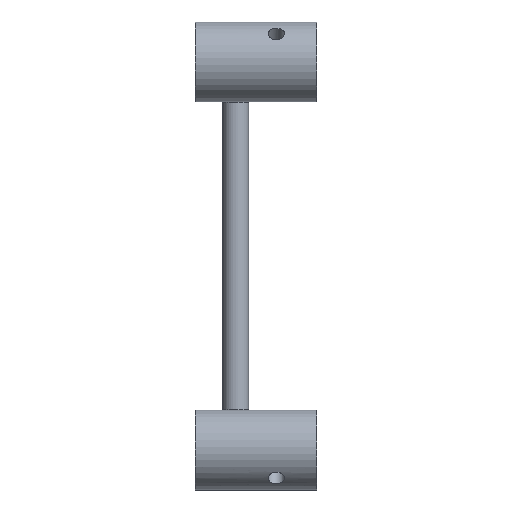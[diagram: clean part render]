
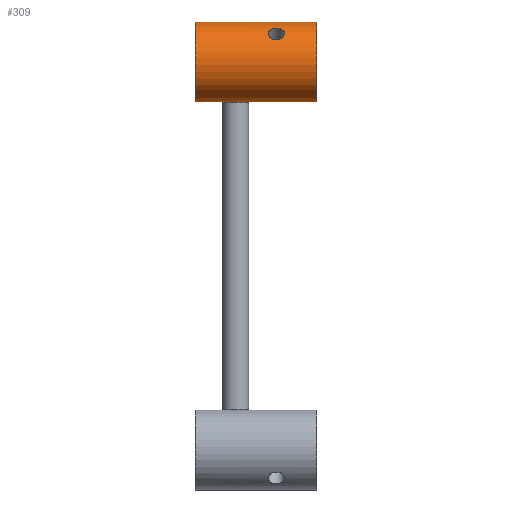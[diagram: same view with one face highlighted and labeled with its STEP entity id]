
A CAD part, front view. The second image highlights one B-rep face of the part: STEP entity #309.
In plain terms, the highlighted cylindrical face has radius 24.66 mm (diameter 49.319 mm), a full revolution.
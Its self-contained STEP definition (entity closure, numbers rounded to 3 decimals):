
#13=B_SPLINE_CURVE_WITH_KNOTS('',3,(#489,#490,#491,#492,#493,#494,#495,
#496,#497,#498,#499,#500,#501,#502,#503,#504,#505,#506,#507,#508,#509,#510,
#511,#512,#513,#514,#515,#516,#517,#518,#519,#520,#521,#522),
 .UNSPECIFIED.,.T.,.F.,(4,2,2,2,2,2,2,2,2,2,2,2,2,2,2,2,4),(0.,0.189,
0.378,0.567,0.756,0.945,
1.133,1.322,1.511,1.7,1.889,
2.078,2.267,2.456,2.645,2.834,
3.023),.UNSPECIFIED.);
#14=B_SPLINE_CURVE_WITH_KNOTS('',3,(#524,#525,#526,#527,#528,#529,#530,
#531,#532,#533,#534,#535,#536,#537,#538,#539,#540,#541,#542,#543,#544,#545,
#546,#547,#548,#549,#550,#551,#552,#553,#554,#555,#556,#557),
 .UNSPECIFIED.,.T.,.F.,(4,2,2,2,2,2,2,2,2,2,2,2,2,2,2,2,4),(0.,0.189,
0.378,0.567,0.756,0.945,
1.133,1.322,1.511,1.7,1.889,
2.078,2.267,2.456,2.645,2.834,
3.023),.UNSPECIFIED.);
#48=FACE_BOUND('',#105,.T.);
#49=FACE_BOUND('',#106,.T.);
#50=FACE_BOUND('',#107,.T.);
#73=FACE_OUTER_BOUND('',#104,.T.);
#104=EDGE_LOOP('',(#216));
#105=EDGE_LOOP('',(#217));
#106=EDGE_LOOP('',(#218));
#107=EDGE_LOOP('',(#219));
#145=CIRCLE('',#350,24.66);
#146=CIRCLE('',#352,24.66);
#161=VERTEX_POINT('',#488);
#162=VERTEX_POINT('',#523);
#163=VERTEX_POINT('',#559);
#164=VERTEX_POINT('',#562);
#185=EDGE_CURVE('',#161,#161,#13,.T.);
#186=EDGE_CURVE('',#162,#162,#14,.T.);
#187=EDGE_CURVE('',#163,#163,#145,.T.);
#188=EDGE_CURVE('',#164,#164,#146,.T.);
#216=ORIENTED_EDGE('',*,*,#188,.F.);
#217=ORIENTED_EDGE('',*,*,#185,.T.);
#218=ORIENTED_EDGE('',*,*,#186,.T.);
#219=ORIENTED_EDGE('',*,*,#187,.T.);
#256=CYLINDRICAL_SURFACE('',#351,24.66);
#309=ADVANCED_FACE('',(#73,#48,#49,#50),#256,.T.);
#350=AXIS2_PLACEMENT_3D('',#560,#408,#409);
#351=AXIS2_PLACEMENT_3D('',#561,#410,#411);
#352=AXIS2_PLACEMENT_3D('',#563,#412,#413);
#408=DIRECTION('center_axis',(1.,0.,0.));
#409=DIRECTION('ref_axis',(0.,-0.707,0.707));
#410=DIRECTION('center_axis',(1.,0.,0.));
#411=DIRECTION('ref_axis',(0.,-0.707,0.707));
#412=DIRECTION('center_axis',(1.,0.,0.));
#413=DIRECTION('ref_axis',(0.,-0.707,0.707));
#488=CARTESIAN_POINT('',(50.,-224.034,-19.113));
#489=CARTESIAN_POINT('Ctrl Pts',(50.,-224.034,-19.113));
#490=CARTESIAN_POINT('Ctrl Pts',(49.37,-224.034,-19.113));
#491=CARTESIAN_POINT('Ctrl Pts',(48.7,-224.104,-19.222));
#492=CARTESIAN_POINT('Ctrl Pts',(47.468,-224.397,-19.652));
#493=CARTESIAN_POINT('Ctrl Pts',(46.907,-224.62,-19.972));
#494=CARTESIAN_POINT('Ctrl Pts',(46.022,-225.156,-20.69));
#495=CARTESIAN_POINT('Ctrl Pts',(45.637,-225.504,-21.134));
#496=CARTESIAN_POINT('Ctrl Pts',(45.126,-226.307,-22.073));
#497=CARTESIAN_POINT('Ctrl Pts',(45.,-226.762,-22.566));
#498=CARTESIAN_POINT('Ctrl Pts',(45.,-227.653,-23.456));
#499=CARTESIAN_POINT('Ctrl Pts',(45.126,-228.146,-23.912));
#500=CARTESIAN_POINT('Ctrl Pts',(45.637,-229.084,-24.715));
#501=CARTESIAN_POINT('Ctrl Pts',(46.022,-229.529,-25.063));
#502=CARTESIAN_POINT('Ctrl Pts',(46.907,-230.246,-25.599));
#503=CARTESIAN_POINT('Ctrl Pts',(47.468,-230.567,-25.822));
#504=CARTESIAN_POINT('Ctrl Pts',(48.7,-230.997,-26.114));
#505=CARTESIAN_POINT('Ctrl Pts',(49.37,-231.105,-26.184));
#506=CARTESIAN_POINT('Ctrl Pts',(50.63,-231.105,-26.184));
#507=CARTESIAN_POINT('Ctrl Pts',(51.3,-230.997,-26.114));
#508=CARTESIAN_POINT('Ctrl Pts',(52.532,-230.567,-25.822));
#509=CARTESIAN_POINT('Ctrl Pts',(53.093,-230.246,-25.599));
#510=CARTESIAN_POINT('Ctrl Pts',(53.978,-229.529,-25.063));
#511=CARTESIAN_POINT('Ctrl Pts',(54.363,-229.084,-24.715));
#512=CARTESIAN_POINT('Ctrl Pts',(54.874,-228.146,-23.912));
#513=CARTESIAN_POINT('Ctrl Pts',(55.,-227.653,-23.456));
#514=CARTESIAN_POINT('Ctrl Pts',(55.,-226.762,-22.566));
#515=CARTESIAN_POINT('Ctrl Pts',(54.874,-226.307,-22.073));
#516=CARTESIAN_POINT('Ctrl Pts',(54.363,-225.504,-21.134));
#517=CARTESIAN_POINT('Ctrl Pts',(53.978,-225.156,-20.69));
#518=CARTESIAN_POINT('Ctrl Pts',(53.093,-224.62,-19.972));
#519=CARTESIAN_POINT('Ctrl Pts',(52.532,-224.397,-19.652));
#520=CARTESIAN_POINT('Ctrl Pts',(51.3,-224.104,-19.222));
#521=CARTESIAN_POINT('Ctrl Pts',(50.63,-224.034,-19.113));
#522=CARTESIAN_POINT('Ctrl Pts',(50.,-224.034,-19.113));
#523=CARTESIAN_POINT('',(50.,-258.184,15.036));
#524=CARTESIAN_POINT('Ctrl Pts',(50.,-258.184,15.036));
#525=CARTESIAN_POINT('Ctrl Pts',(50.63,-258.184,15.036));
#526=CARTESIAN_POINT('Ctrl Pts',(51.3,-258.292,14.966));
#527=CARTESIAN_POINT('Ctrl Pts',(52.532,-258.722,14.674));
#528=CARTESIAN_POINT('Ctrl Pts',(53.093,-259.043,14.451));
#529=CARTESIAN_POINT('Ctrl Pts',(53.978,-259.76,13.915));
#530=CARTESIAN_POINT('Ctrl Pts',(54.363,-260.205,13.566));
#531=CARTESIAN_POINT('Ctrl Pts',(54.874,-261.143,12.763));
#532=CARTESIAN_POINT('Ctrl Pts',(55.,-261.636,12.308));
#533=CARTESIAN_POINT('Ctrl Pts',(55.,-262.527,11.418));
#534=CARTESIAN_POINT('Ctrl Pts',(54.874,-262.982,10.925));
#535=CARTESIAN_POINT('Ctrl Pts',(54.363,-263.785,9.986));
#536=CARTESIAN_POINT('Ctrl Pts',(53.978,-264.134,9.541));
#537=CARTESIAN_POINT('Ctrl Pts',(53.093,-264.669,8.824));
#538=CARTESIAN_POINT('Ctrl Pts',(52.532,-264.893,8.504));
#539=CARTESIAN_POINT('Ctrl Pts',(51.3,-265.185,8.074));
#540=CARTESIAN_POINT('Ctrl Pts',(50.63,-265.255,7.965));
#541=CARTESIAN_POINT('Ctrl Pts',(49.37,-265.255,7.965));
#542=CARTESIAN_POINT('Ctrl Pts',(48.7,-265.185,8.074));
#543=CARTESIAN_POINT('Ctrl Pts',(47.468,-264.893,8.504));
#544=CARTESIAN_POINT('Ctrl Pts',(46.907,-264.669,8.824));
#545=CARTESIAN_POINT('Ctrl Pts',(46.022,-264.134,9.541));
#546=CARTESIAN_POINT('Ctrl Pts',(45.637,-263.785,9.986));
#547=CARTESIAN_POINT('Ctrl Pts',(45.126,-262.982,10.925));
#548=CARTESIAN_POINT('Ctrl Pts',(45.,-262.527,11.418));
#549=CARTESIAN_POINT('Ctrl Pts',(45.,-261.636,12.308));
#550=CARTESIAN_POINT('Ctrl Pts',(45.126,-261.143,12.763));
#551=CARTESIAN_POINT('Ctrl Pts',(45.637,-260.205,13.566));
#552=CARTESIAN_POINT('Ctrl Pts',(46.022,-259.76,13.915));
#553=CARTESIAN_POINT('Ctrl Pts',(46.907,-259.043,14.451));
#554=CARTESIAN_POINT('Ctrl Pts',(47.468,-258.722,14.674));
#555=CARTESIAN_POINT('Ctrl Pts',(48.7,-258.292,14.966));
#556=CARTESIAN_POINT('Ctrl Pts',(49.37,-258.184,15.036));
#557=CARTESIAN_POINT('Ctrl Pts',(50.,-258.184,15.036));
#559=CARTESIAN_POINT('',(0.,-262.082,11.863));
#560=CARTESIAN_POINT('Origin',(0.,-244.645,-5.574));
#561=CARTESIAN_POINT('Origin',(37.5,-244.645,-5.574));
#562=CARTESIAN_POINT('',(75.,-262.082,11.863));
#563=CARTESIAN_POINT('Origin',(75.,-244.645,-5.574));
